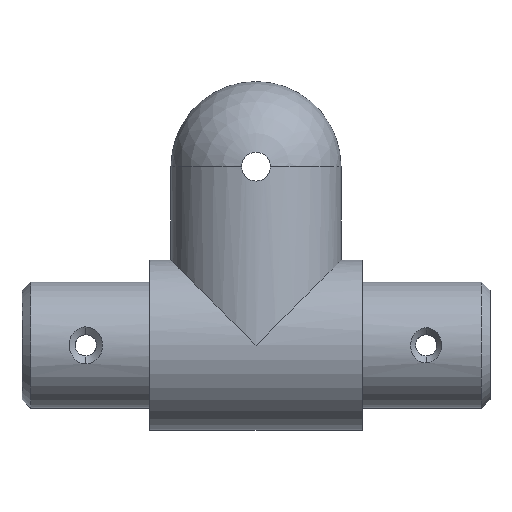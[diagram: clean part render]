
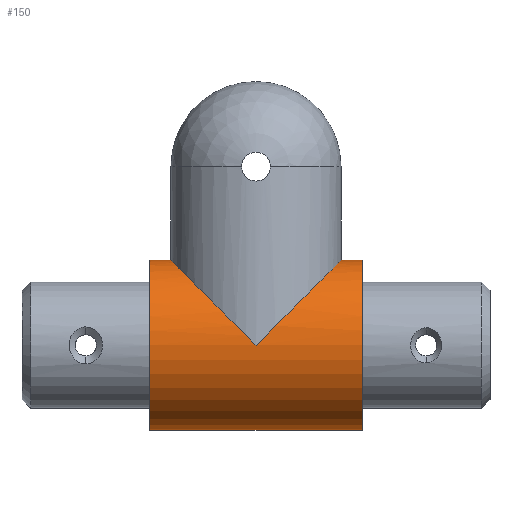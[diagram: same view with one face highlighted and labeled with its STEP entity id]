
A CAD part, front view. The second image highlights one B-rep face of the part: STEP entity #150.
In plain terms, the highlighted cylindrical face has radius 20 mm (diameter 40 mm), a partial arc.
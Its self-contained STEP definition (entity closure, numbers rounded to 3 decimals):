
#150 = ADVANCED_FACE ( 'NONE', ( #4338 ), #13710, .T. ) ;
#416 = CARTESIAN_POINT ( 'NONE',  ( 0., -20., 0. ) ) ;
#766 = VERTEX_POINT ( 'NONE', #17888 ) ;
#1417 = CARTESIAN_POINT ( 'NONE',  ( 25., 0., 20. ) ) ;
#2248 = VECTOR ( 'NONE', #16443, 1000. ) ;
#2548 = DIRECTION ( 'NONE',  ( -1., 0., 0. ) ) ;
#2613 = CARTESIAN_POINT ( 'NONE',  ( 0., -20., 0. ) ) ;
#2644 = CARTESIAN_POINT ( 'NONE',  ( 0., -20., 0. ) ) ;
#2667 = LINE ( 'NONE', #17900, #2248 ) ;
#2773 = CARTESIAN_POINT ( 'NONE',  ( -20., -11.716, -20. ) ) ;
#3063 = EDGE_CURVE ( 'NONE', #766, #5462, #13938, .T. ) ;
#3256 = CARTESIAN_POINT ( 'NONE',  ( 25., 0., 0. ) ) ;
#4011 = VECTOR ( 'NONE', #2548, 1000. ) ;
#4338 = FACE_OUTER_BOUND ( 'NONE', #17340, .T. ) ;
#4710 = DIRECTION ( 'NONE',  ( 0., 0., -1. ) ) ;
#4717 = CARTESIAN_POINT ( 'NONE',  ( 55., 0., 0. ) ) ;
#5044 = DIRECTION ( 'NONE',  ( 1., 0., 0. ) ) ;
#5053 = VERTEX_POINT ( 'NONE', #10377 ) ;
#5427 = ORIENTED_EDGE ( 'NONE', *, *, #6955, .F. ) ;
#5462 = VERTEX_POINT ( 'NONE', #416 ) ;
#5465 = CARTESIAN_POINT ( 'NONE',  ( 55., 0., -20. ) ) ;
#5519 = DIRECTION ( 'NONE',  ( 0., 0., -1. ) ) ;
#5982 = DIRECTION ( 'NONE',  ( 1., 0., 0. ) ) ;
#6054 = DIRECTION ( 'NONE',  ( 0., 0., 1. ) ) ;
#6161 = VERTEX_POINT ( 'NONE', #10867 ) ;
#6247 = DIRECTION ( 'NONE',  ( -1., 0., 0. ) ) ;
#6834 = EDGE_CURVE ( 'NONE', #6161, #766, #2667, .T. ) ;
#6840 = ORIENTED_EDGE ( 'NONE', *, *, #6834, .F. ) ;
#6865 = CARTESIAN_POINT ( 'NONE',  ( -25., 0., 0. ) ) ;
#6955 = EDGE_CURVE ( 'NONE', #5462, #15418, #7534, .T. ) ;
#7534 =( BOUNDED_CURVE ( )  B_SPLINE_CURVE ( 3, ( #2644, #11139, #2773, #13742 ),
 .UNSPECIFIED., .F., .F. ) 
 B_SPLINE_CURVE_WITH_KNOTS ( ( 4, 4 ),
 ( 4.712, 6.283 ),
 .UNSPECIFIED. ) 
 CURVE ( )  GEOMETRIC_REPRESENTATION_ITEM ( )  RATIONAL_B_SPLINE_CURVE ( ( 1., 0.805, 0.805, 1. ) ) 
 REPRESENTATION_ITEM ( '' )  );
#7984 = EDGE_CURVE ( 'NONE', #15418, #12879, #12303, .T. ) ;
#8148 = ORIENTED_EDGE ( 'NONE', *, *, #9310, .F. ) ;
#8415 = CARTESIAN_POINT ( 'NONE',  ( 11.716, -20., -11.716 ) ) ;
#8866 = ORIENTED_EDGE ( 'NONE', *, *, #10926, .T. ) ;
#9269 = CIRCLE ( 'NONE', #17862, 20. ) ;
#9310 = EDGE_CURVE ( 'NONE', #5053, #15317, #11442, .T. ) ;
#9701 = ORIENTED_EDGE ( 'NONE', *, *, #7984, .F. ) ;
#9784 = AXIS2_PLACEMENT_3D ( 'NONE', #6865, #15222, #5519 ) ;
#10377 = CARTESIAN_POINT ( 'NONE',  ( -25., 0., 20. ) ) ;
#10733 = AXIS2_PLACEMENT_3D ( 'NONE', #4717, #6247, #6054 ) ;
#10867 = CARTESIAN_POINT ( 'NONE',  ( 25., 0., -20. ) ) ;
#10926 = EDGE_CURVE ( 'NONE', #5053, #12879, #14672, .T. ) ;
#11139 = CARTESIAN_POINT ( 'NONE',  ( -11.716, -20., -11.716 ) ) ;
#11442 = LINE ( 'NONE', #13459, #12946 ) ;
#12303 = LINE ( 'NONE', #5465, #4011 ) ;
#12879 = VERTEX_POINT ( 'NONE', #13563 ) ;
#12946 = VECTOR ( 'NONE', #5044, 1000. ) ;
#13127 = ORIENTED_EDGE ( 'NONE', *, *, #3063, .F. ) ;
#13459 = CARTESIAN_POINT ( 'NONE',  ( 55., 0., 20. ) ) ;
#13563 = CARTESIAN_POINT ( 'NONE',  ( -25., 0., -20. ) ) ;
#13710 = CYLINDRICAL_SURFACE ( 'NONE', #10733, 20. ) ;
#13742 = CARTESIAN_POINT ( 'NONE',  ( -20., 0., -20. ) ) ;
#13938 =( BOUNDED_CURVE ( )  B_SPLINE_CURVE ( 3, ( #16790, #18068, #8415, #2613 ),
 .UNSPECIFIED., .F., .T. ) 
 B_SPLINE_CURVE_WITH_KNOTS ( ( 4, 4 ),
 ( 0., 1.571 ),
 .UNSPECIFIED. ) 
 CURVE ( )  GEOMETRIC_REPRESENTATION_ITEM ( )  RATIONAL_B_SPLINE_CURVE ( ( 1., 0.805, 0.805, 1. ) ) 
 REPRESENTATION_ITEM ( '' )  );
#14012 = ORIENTED_EDGE ( 'NONE', *, *, #17592, .F. ) ;
#14672 = CIRCLE ( 'NONE', #9784, 20. ) ;
#15222 = DIRECTION ( 'NONE',  ( 1., 0., 0. ) ) ;
#15317 = VERTEX_POINT ( 'NONE', #1417 ) ;
#15418 = VERTEX_POINT ( 'NONE', #18013 ) ;
#16443 = DIRECTION ( 'NONE',  ( -1., 0., 0. ) ) ;
#16790 = CARTESIAN_POINT ( 'NONE',  ( 20., 0., -20. ) ) ;
#17340 = EDGE_LOOP ( 'NONE', ( #6840, #14012, #8148, #8866, #9701, #5427, #13127 ) ) ;
#17592 = EDGE_CURVE ( 'NONE', #15317, #6161, #9269, .T. ) ;
#17862 = AXIS2_PLACEMENT_3D ( 'NONE', #3256, #5982, #4710 ) ;
#17888 = CARTESIAN_POINT ( 'NONE',  ( 20., 0., -20. ) ) ;
#17900 = CARTESIAN_POINT ( 'NONE',  ( 55., 0., -20. ) ) ;
#18013 = CARTESIAN_POINT ( 'NONE',  ( -20., 0., -20. ) ) ;
#18068 = CARTESIAN_POINT ( 'NONE',  ( 20., -11.716, -20. ) ) ;
